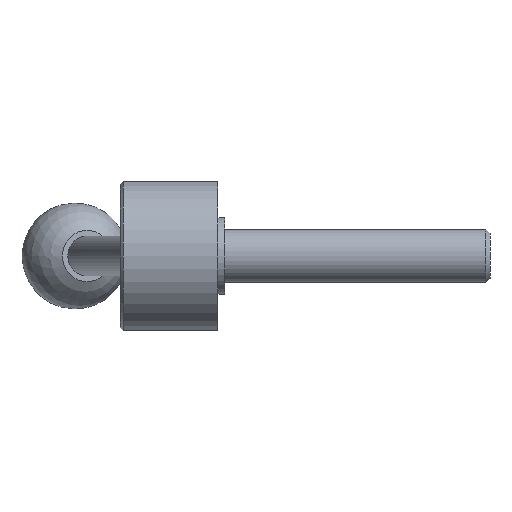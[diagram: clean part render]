
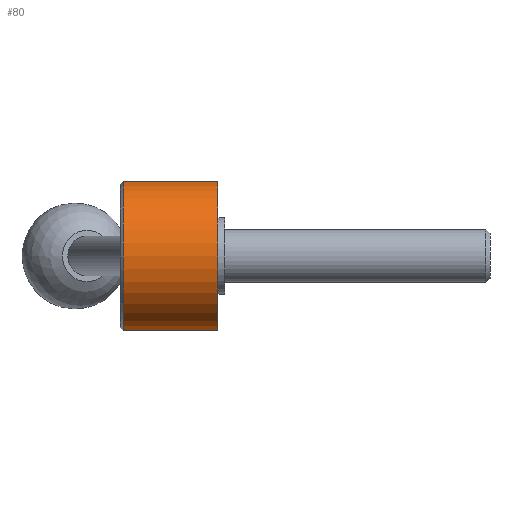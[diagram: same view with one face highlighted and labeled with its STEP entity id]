
A CAD part, left-side view. The second image highlights one B-rep face of the part: STEP entity #80.
In plain terms, the highlighted cylindrical face has radius 22.5 mm (diameter 45 mm), a full revolution.
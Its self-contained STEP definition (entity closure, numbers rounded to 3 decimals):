
#80 = ADVANCED_FACE( '', ( #106, #107, #108 ), #109, .T. );
#106 = FACE_OUTER_BOUND( '', #150, .T. );
#107 = FACE_BOUND( '', #151, .T. );
#108 = FACE_OUTER_BOUND( '', #152, .T. );
#109 = CYLINDRICAL_SURFACE( '', #153, 22.5 );
#150 = EDGE_LOOP( '', ( #204 ) );
#151 = EDGE_LOOP( '', ( #205 ) );
#152 = EDGE_LOOP( '', ( #206 ) );
#153 = AXIS2_PLACEMENT_3D( '', #207, #208, #209 );
#204 = ORIENTED_EDGE( '', *, *, #258, .F. );
#205 = ORIENTED_EDGE( '', *, *, #259, .F. );
#206 = ORIENTED_EDGE( '', *, *, #260, .T. );
#207 = CARTESIAN_POINT( '', ( 0., 0., 0. ) );
#208 = DIRECTION( '', ( 0., 1., 0. ) );
#209 = DIRECTION( '', ( 0., 0., -1. ) );
#258 = EDGE_CURVE( '', #278, #278, #279, .T. );
#259 = EDGE_CURVE( '', #280, #280, #281, .T. );
#260 = EDGE_CURVE( '', #282, #282, #283, .T. );
#278 = VERTEX_POINT( '', #306 );
#279 = CIRCLE( '', #307, 22.5 );
#280 = VERTEX_POINT( '', #308 );
#281 = B_SPLINE_CURVE_WITH_KNOTS( '', 3, ( #309, #310, #311, #312, #313, #314, #315, #316, #317, #318, #319, #320, #321, #322, #323, #324, #325, #326, #327, #328, #329, #330, #331, #332, #333, #334, #335, #336, #337, #338, #339, #340, #341, #342, #343, #344, #345, #346, #347, #348, #349, #350, #351, #352, #353, #354, #355, #356, #357, #358, #359, #360, #361, #362, #363, #364, #365, #366, #367, #368, #369, #370, #371, #372, #373, #374, #375, #376, #377, #378, #379, #380, #381, #382, #383, #384, #385, #386, #387, #388, #389, #390, #391, #392 ), .UNSPECIFIED., .T., .F., ( 2, 2, 2, 2, 2, 2, 2, 2, 2, 2, 2, 2, 2, 2, 2, 2, 2, 2, 2, 2, 2, 2, 2, 2, 2, 2, 2, 2, 2, 2, 2, 2, 2, 2, 2, 2, 2, 2, 2, 2, 2, 2, 2, 2 ), ( -0.001, 0., 0.001, 0.002, 0.002, 0.004, 0.004, 0.005, 0.006, 0.007, 0.008, 0.008, 0.009, 0.011, 0.012, 0.012, 0.013, 0.014, 0.014, 0.015, 0.016, 0.018, 0.018, 0.019, 0.02, 0.021, 0.022, 0.024, 0.024, 0.025, 0.026, 0.027, 0.028, 0.028, 0.029, 0.031, 0.032, 0.033, 0.034, 0.034, 0.035, 0.037, 0.038, 0.039 ), .UNSPECIFIED. );
#282 = VERTEX_POINT( '', #393 );
#283 = CIRCLE( '', #394, 22.5 );
#306 = CARTESIAN_POINT( '', ( 0., 2., -22.5 ) );
#307 = AXIS2_PLACEMENT_3D( '', #422, #423, #424 );
#308 = CARTESIAN_POINT( '', ( 21.685, 20., 6. ) );
#309 = CARTESIAN_POINT( '', ( 21.685, 20.398, 6. ) );
#310 = CARTESIAN_POINT( '', ( 21.685, 19.602, 6. ) );
#311 = CARTESIAN_POINT( '', ( 21.696, 19.21, 5.961 ) );
#312 = CARTESIAN_POINT( '', ( 21.727, 18.633, 5.846 ) );
#313 = CARTESIAN_POINT( '', ( 21.74, 18.443, 5.798 ) );
#314 = CARTESIAN_POINT( '', ( 21.771, 18.065, 5.683 ) );
#315 = CARTESIAN_POINT( '', ( 21.788, 17.878, 5.616 ) );
#316 = CARTESIAN_POINT( '', ( 21.846, 17.334, 5.389 ) );
#317 = CARTESIAN_POINT( '', ( 21.891, 16.99, 5.205 ) );
#318 = CARTESIAN_POINT( '', ( 21.965, 16.502, 4.878 ) );
#319 = CARTESIAN_POINT( '', ( 21.991, 16.343, 4.761 ) );
#320 = CARTESIAN_POINT( '', ( 22.044, 16.039, 4.511 ) );
#321 = CARTESIAN_POINT( '', ( 22.07, 15.895, 4.38 ) );
#322 = CARTESIAN_POINT( '', ( 22.149, 15.482, 3.967 ) );
#323 = CARTESIAN_POINT( '', ( 22.202, 15.234, 3.666 ) );
#324 = CARTESIAN_POINT( '', ( 22.3, 14.795, 3.011 ) );
#325 = CARTESIAN_POINT( '', ( 22.345, 14.61, 2.664 ) );
#326 = CARTESIAN_POINT( '', ( 22.4, 14.385, 2.123 ) );
#327 = CARTESIAN_POINT( '', ( 22.417, 14.319, 1.939 ) );
#328 = CARTESIAN_POINT( '', ( 22.446, 14.204, 1.563 ) );
#329 = CARTESIAN_POINT( '', ( 22.459, 14.155, 1.369 ) );
#330 = CARTESIAN_POINT( '', ( 22.49, 14.039, 0.788 ) );
#331 = CARTESIAN_POINT( '', ( 22.5, 14., 0.397 ) );
#332 = CARTESIAN_POINT( '', ( 22.5, 14., -0.39 ) );
#333 = CARTESIAN_POINT( '', ( 22.489, 14.039, -0.789 ) );
#334 = CARTESIAN_POINT( '', ( 22.449, 14.193, -1.56 ) );
#335 = CARTESIAN_POINT( '', ( 22.42, 14.307, -1.935 ) );
#336 = CARTESIAN_POINT( '', ( 22.363, 14.534, -2.482 ) );
#337 = CARTESIAN_POINT( '', ( 22.343, 14.619, -2.661 ) );
#338 = CARTESIAN_POINT( '', ( 22.299, 14.804, -3.007 ) );
#339 = CARTESIAN_POINT( '', ( 22.276, 14.905, -3.174 ) );
#340 = CARTESIAN_POINT( '', ( 22.227, 15.121, -3.498 ) );
#341 = CARTESIAN_POINT( '', ( 22.202, 15.238, -3.655 ) );
#342 = CARTESIAN_POINT( '', ( 22.15, 15.486, -3.957 ) );
#343 = CARTESIAN_POINT( '', ( 22.123, 15.619, -4.104 ) );
#344 = CARTESIAN_POINT( '', ( 22.043, 16.035, -4.52 ) );
#345 = CARTESIAN_POINT( '', ( 21.99, 16.336, -4.767 ) );
#346 = CARTESIAN_POINT( '', ( 21.892, 16.984, -5.202 ) );
#347 = CARTESIAN_POINT( '', ( 21.845, 17.336, -5.39 ) );
#348 = CARTESIAN_POINT( '', ( 21.769, 18.059, -5.691 ) );
#349 = CARTESIAN_POINT( '', ( 21.738, 18.433, -5.805 ) );
#350 = CARTESIAN_POINT( '', ( 21.707, 19.013, -5.922 ) );
#351 = CARTESIAN_POINT( '', ( 21.699, 19.211, -5.951 ) );
#352 = CARTESIAN_POINT( '', ( 21.688, 19.605, -5.99 ) );
#353 = CARTESIAN_POINT( '', ( 21.685, 19.801, -6. ) );
#354 = CARTESIAN_POINT( '', ( 21.685, 20.39, -6. ) );
#355 = CARTESIAN_POINT( '', ( 21.696, 20.782, -5.962 ) );
#356 = CARTESIAN_POINT( '', ( 21.738, 21.562, -5.807 ) );
#357 = CARTESIAN_POINT( '', ( 21.769, 21.937, -5.692 ) );
#358 = CARTESIAN_POINT( '', ( 21.845, 22.66, -5.392 ) );
#359 = CARTESIAN_POINT( '', ( 21.891, 23.011, -5.204 ) );
#360 = CARTESIAN_POINT( '', ( 21.99, 23.662, -4.769 ) );
#361 = CARTESIAN_POINT( '', ( 22.043, 23.963, -4.522 ) );
#362 = CARTESIAN_POINT( '', ( 22.122, 24.378, -4.108 ) );
#363 = CARTESIAN_POINT( '', ( 22.149, 24.511, -3.961 ) );
#364 = CARTESIAN_POINT( '', ( 22.201, 24.76, -3.658 ) );
#365 = CARTESIAN_POINT( '', ( 22.227, 24.877, -3.501 ) );
#366 = CARTESIAN_POINT( '', ( 22.299, 25.202, -3.015 ) );
#367 = CARTESIAN_POINT( '', ( 22.344, 25.387, -2.671 ) );
#368 = CARTESIAN_POINT( '', ( 22.419, 25.691, -1.941 ) );
#369 = CARTESIAN_POINT( '', ( 22.449, 25.806, -1.564 ) );
#370 = CARTESIAN_POINT( '', ( 22.479, 25.921, -0.987 ) );
#371 = CARTESIAN_POINT( '', ( 22.487, 25.951, -0.793 ) );
#372 = CARTESIAN_POINT( '', ( 22.497, 25.99, -0.4 ) );
#373 = CARTESIAN_POINT( '', ( 22.5, 26., -0.201 ) );
#374 = CARTESIAN_POINT( '', ( 22.5, 26., 0.393 ) );
#375 = CARTESIAN_POINT( '', ( 22.49, 25.962, 0.784 ) );
#376 = CARTESIAN_POINT( '', ( 22.45, 25.808, 1.555 ) );
#377 = CARTESIAN_POINT( '', ( 22.419, 25.692, 1.938 ) );
#378 = CARTESIAN_POINT( '', ( 22.345, 25.391, 2.662 ) );
#379 = CARTESIAN_POINT( '', ( 22.301, 25.207, 3.007 ) );
#380 = CARTESIAN_POINT( '', ( 22.203, 24.77, 3.662 ) );
#381 = CARTESIAN_POINT( '', ( 22.15, 24.52, 3.965 ) );
#382 = CARTESIAN_POINT( '', ( 22.07, 24.107, 4.378 ) );
#383 = CARTESIAN_POINT( '', ( 22.044, 23.963, 4.509 ) );
#384 = CARTESIAN_POINT( '', ( 21.992, 23.661, 4.758 ) );
#385 = CARTESIAN_POINT( '', ( 21.966, 23.502, 4.876 ) );
#386 = CARTESIAN_POINT( '', ( 21.891, 23.012, 5.204 ) );
#387 = CARTESIAN_POINT( '', ( 21.846, 22.669, 5.388 ) );
#388 = CARTESIAN_POINT( '', ( 21.769, 21.946, 5.689 ) );
#389 = CARTESIAN_POINT( '', ( 21.738, 21.563, 5.806 ) );
#390 = CARTESIAN_POINT( '', ( 21.696, 20.791, 5.961 ) );
#391 = CARTESIAN_POINT( '', ( 21.685, 20.398, 6. ) );
#392 = CARTESIAN_POINT( '', ( 21.685, 19.602, 6. ) );
#393 = CARTESIAN_POINT( '', ( 0., 30.5, -22.5 ) );
#394 = AXIS2_PLACEMENT_3D( '', #425, #426, #427 );
#422 = CARTESIAN_POINT( '', ( 0., 2., 0. ) );
#423 = DIRECTION( '', ( 0., -1., 0. ) );
#424 = DIRECTION( '', ( 0., 0., -1. ) );
#425 = CARTESIAN_POINT( '', ( 0., 30.5, 0. ) );
#426 = DIRECTION( '', ( 0., -1., 0. ) );
#427 = DIRECTION( '', ( 0., 0., -1. ) );
